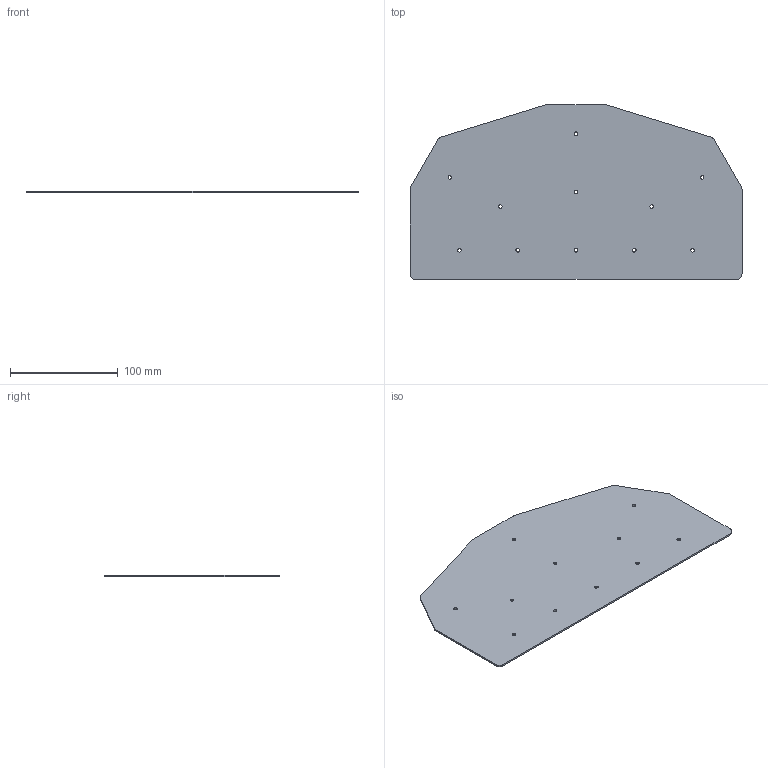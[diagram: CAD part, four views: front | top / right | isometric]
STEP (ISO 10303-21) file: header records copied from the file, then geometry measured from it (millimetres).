
FILE_DESCRIPTION (( 'STEP AP214' ), '1' );
FILE_NAME ('DRP-002-0014-02.step', '2010-06-23T19:15:25', ( '' ), ( '' ), 'SwSTEP 2.0', 'SolidWorks 2010', '' );
FILE_SCHEMA (( 'AUTOMOTIVE_DESIGN' ));
Length unit declared in the file: inch
Products named in the file (1): DRP-002-0014-02
Bounding box: 307.45 x 161.93 x 1.52 mm (x, y, z)
Volume: 66612.2 mm3; surface area: 88874.5 mm2
Topology: 1 solids, 1 shells, 40 faces, 114 edges, 76 vertices
Faces by surface type: cylinder 30, plane 10
Entity records: 1422 total; most frequent: DIRECTION 256, CARTESIAN_POINT 231, ORIENTED_EDGE 228, EDGE_CURVE 114, AXIS2_PLACEMENT_3D 101, VERTEX_POINT 76, EDGE_LOOP 62, CIRCLE 60
